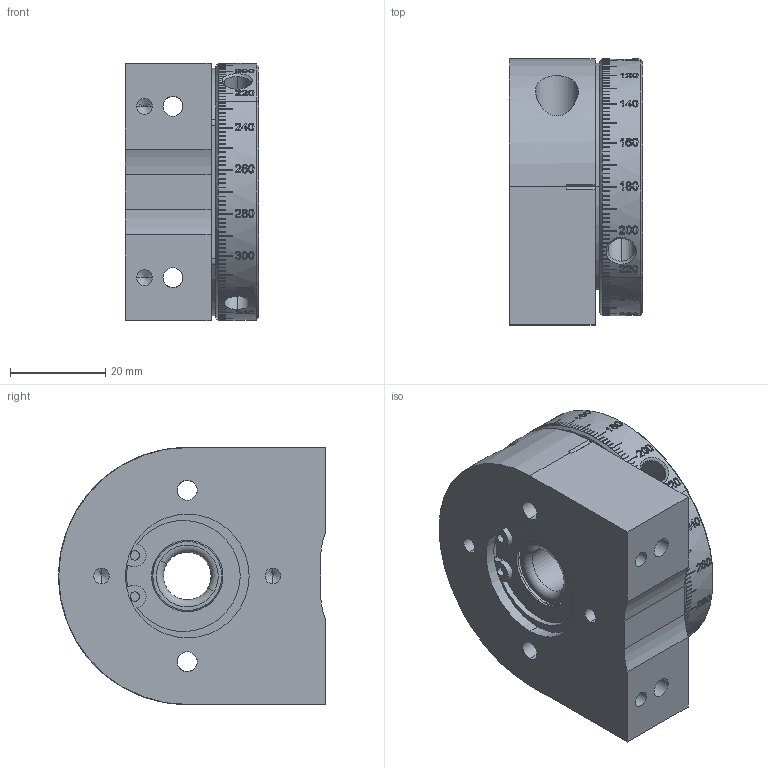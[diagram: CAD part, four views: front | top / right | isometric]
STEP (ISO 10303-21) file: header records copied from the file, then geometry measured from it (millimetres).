
FILE_DESCRIPTION (( 'STEP AP214' ), '1' );
FILE_NAME ('CAD (step) GGL08.STEP', '2022-10-25T12:03:48', ( '' ), ( '' ), 'SwSTEP 2.0', 'SolidWorks 2019', '' );
FILE_SCHEMA (( 'AUTOMOTIVE_DESIGN' ));
Length unit declared in the file: millimetre
Products named in the file (1): CAD (step) GGL08
Bounding box: 28 x 56.01 x 54.02 mm (x, y, z)
Volume: 55064.1 mm3; surface area: 23018.2 mm2
Topology: 1 solids, 2 shells, 1795 faces, 4634 edges, 2914 vertices
Faces by surface type: plane 850, bspline 485, cylinder 398, cone 58, torus 4
Entity records: 108633 total; most frequent: CARTESIAN_POINT 68348, ORIENTED_EDGE 9204, DIRECTION 6912, EDGE_CURVE 4602, VERTEX_POINT 2914, AXIS2_PLACEMENT_3D 2543, EDGE_LOOP 1924, VECTOR 1826
